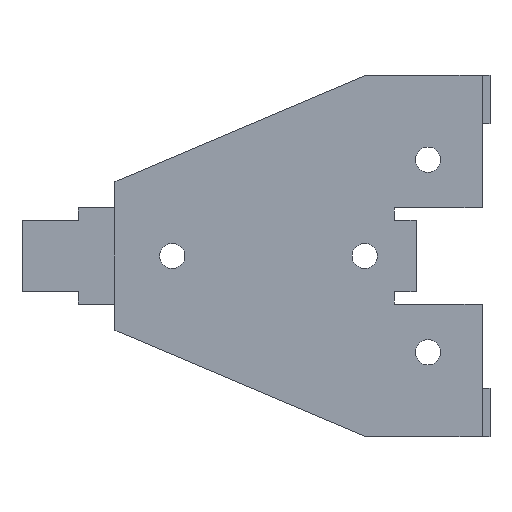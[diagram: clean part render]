
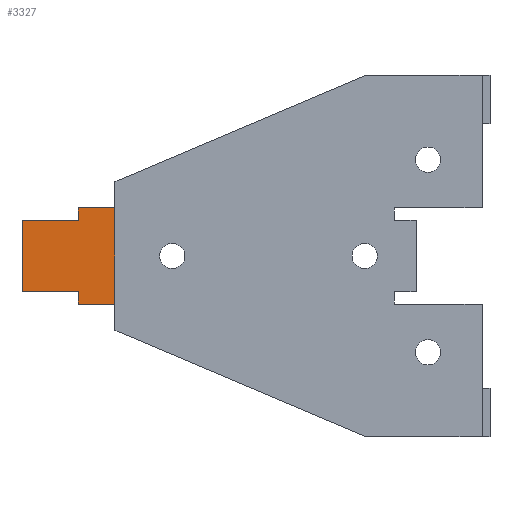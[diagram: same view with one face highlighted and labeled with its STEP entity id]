
A CAD part, left-side view. The second image highlights one B-rep face of the part: STEP entity #3327.
In plain terms, the highlighted planar face has unit normal (-1, 0, 0).
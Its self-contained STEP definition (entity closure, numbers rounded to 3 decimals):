
#322 = EDGE_LOOP ( 'NONE', ( #4103, #4104, #4105, #4106, #4107, #4108, #4109, #4110 ) ) ;
#687 = LINE ( 'NONE', #3379, #704 ) ;
#704 = VECTOR ( 'NONE', #3391, 1000. ) ;
#736 = LINE ( 'NONE', #3425, #737 ) ;
#737 = VECTOR ( 'NONE', #3426, 1000. ) ;
#876 = EDGE_CURVE ( 'NONE', #1530, #1527, #687, .T. ) ;
#893 = EDGE_CURVE ( 'NONE', #1528, #1527, #736, .T. ) ;
#1032 = AXIS2_PLACEMENT_3D ( 'NONE', #1850, #1859, #1860 ) ;
#1036 = EDGE_CURVE ( 'NONE', #1465, #1464, #4033, .T. ) ;
#1198 = EDGE_CURVE ( 'NONE', #1464, #1406, #3056, .T. ) ;
#1207 = EDGE_CURVE ( 'NONE', #1444, #1528, #4100, .T. ) ;
#1218 = EDGE_CURVE ( 'NONE', #1465, #1530, #3091, .T. ) ;
#1260 = EDGE_CURVE ( 'NONE', #1444, #1405, #3170, .T. ) ;
#1353 = EDGE_CURVE ( 'NONE', #1406, #1405, #2798, .T. ) ;
#1405 = VERTEX_POINT ( 'NONE', #2529 ) ;
#1406 = VERTEX_POINT ( 'NONE', #2530 ) ;
#1444 = VERTEX_POINT ( 'NONE', #2568 ) ;
#1464 = VERTEX_POINT ( 'NONE', #2588 ) ;
#1465 = VERTEX_POINT ( 'NONE', #2589 ) ;
#1527 = VERTEX_POINT ( 'NONE', #2651 ) ;
#1528 = VERTEX_POINT ( 'NONE', #2652 ) ;
#1530 = VERTEX_POINT ( 'NONE', #2654 ) ;
#1849 = PLANE ( 'NONE',  #1032 ) ;
#1850 = CARTESIAN_POINT ( 'NONE',  ( 1.5, 58.1, 30. ) ) ;
#1859 = DIRECTION ( 'NONE',  ( 1., 0., 0. ) ) ;
#1860 = DIRECTION ( 'NONE',  ( 0., 0., -1. ) ) ;
#1931 = FACE_OUTER_BOUND ( 'NONE', #322, .T. ) ;
#2146 = CARTESIAN_POINT ( 'NONE',  ( 1.5, 67.45, 5.9 ) ) ;
#2147 = DIRECTION ( 'NONE',  ( 0., 1., 0. ) ) ;
#2165 = CARTESIAN_POINT ( 'NONE',  ( 1.5, 58.1, 30. ) ) ;
#2166 = DIRECTION ( 'NONE',  ( 0., 0., -1. ) ) ;
#2188 = CARTESIAN_POINT ( 'NONE',  ( 1.5, 52., 8. ) ) ;
#2189 = DIRECTION ( 'NONE',  ( 0., -1., 0. ) ) ;
#2272 = CARTESIAN_POINT ( 'NONE',  ( 1.5, 67.45, -5.9 ) ) ;
#2273 = DIRECTION ( 'NONE',  ( 0., 1., 0. ) ) ;
#2475 = CARTESIAN_POINT ( 'NONE',  ( 1.5, 67.45, 15.37 ) ) ;
#2476 = DIRECTION ( 'NONE',  ( 0., 0., -1. ) ) ;
#2529 = CARTESIAN_POINT ( 'NONE',  ( 1.5, 67.45, -5.9 ) ) ;
#2530 = CARTESIAN_POINT ( 'NONE',  ( 1.5, 67.45, 5.9 ) ) ;
#2568 = CARTESIAN_POINT ( 'NONE',  ( 1.5, 58.1, -5.9 ) ) ;
#2588 = CARTESIAN_POINT ( 'NONE',  ( 1.5, 58.1, 5.9 ) ) ;
#2589 = CARTESIAN_POINT ( 'NONE',  ( 1.5, 58.1, 8. ) ) ;
#2651 = CARTESIAN_POINT ( 'NONE',  ( 1.5, 52., -8. ) ) ;
#2652 = CARTESIAN_POINT ( 'NONE',  ( 1.5, 58.1, -8. ) ) ;
#2654 = CARTESIAN_POINT ( 'NONE',  ( 1.5, 52., 8. ) ) ;
#2798 = LINE ( 'NONE', #2475, #2808 ) ;
#2808 = VECTOR ( 'NONE', #2476, 1000. ) ;
#3056 = LINE ( 'NONE', #2146, #3057 ) ;
#3057 = VECTOR ( 'NONE', #2147, 1000. ) ;
#3072 = VECTOR ( 'NONE', #2166, 1000. ) ;
#3091 = LINE ( 'NONE', #2188, #3092 ) ;
#3092 = VECTOR ( 'NONE', #2189, 1000. ) ;
#3170 = LINE ( 'NONE', #2272, #3171 ) ;
#3171 = VECTOR ( 'NONE', #2273, 1000. ) ;
#3327 = ADVANCED_FACE ( 'NONE', ( #1931 ), #1849, .F. ) ;
#3379 = CARTESIAN_POINT ( 'NONE',  ( 1.5, 52., 30. ) ) ;
#3391 = DIRECTION ( 'NONE',  ( 0., 0., -1. ) ) ;
#3425 = CARTESIAN_POINT ( 'NONE',  ( 1.5, 58.1, -8. ) ) ;
#3426 = DIRECTION ( 'NONE',  ( 0., -1., 0. ) ) ;
#3551 = CARTESIAN_POINT ( 'NONE',  ( 1.5, 58.1, 30. ) ) ;
#3552 = DIRECTION ( 'NONE',  ( 0., 0., -1. ) ) ;
#4033 = LINE ( 'NONE', #3551, #4034 ) ;
#4034 = VECTOR ( 'NONE', #3552, 1000. ) ;
#4100 = LINE ( 'NONE', #2165, #3072 ) ;
#4103 = ORIENTED_EDGE ( 'NONE', *, *, #1036, .T. ) ;
#4104 = ORIENTED_EDGE ( 'NONE', *, *, #1198, .T. ) ;
#4105 = ORIENTED_EDGE ( 'NONE', *, *, #1353, .T. ) ;
#4106 = ORIENTED_EDGE ( 'NONE', *, *, #1260, .F. ) ;
#4107 = ORIENTED_EDGE ( 'NONE', *, *, #1207, .T. ) ;
#4108 = ORIENTED_EDGE ( 'NONE', *, *, #893, .T. ) ;
#4109 = ORIENTED_EDGE ( 'NONE', *, *, #876, .F. ) ;
#4110 = ORIENTED_EDGE ( 'NONE', *, *, #1218, .F. ) ;
